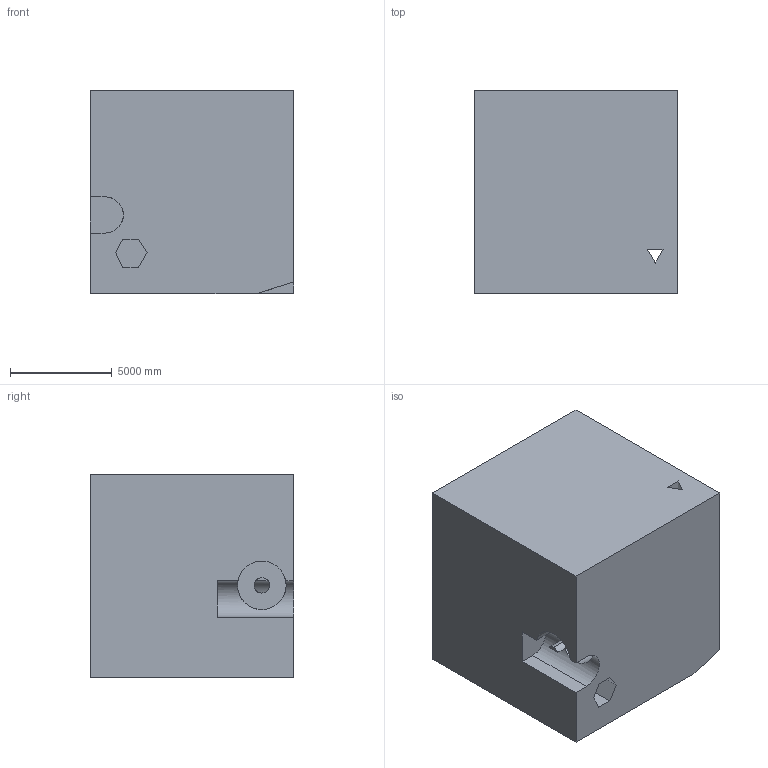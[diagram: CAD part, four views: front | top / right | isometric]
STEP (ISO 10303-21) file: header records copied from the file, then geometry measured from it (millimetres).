
FILE_DESCRIPTION (( 'STEP AP203' ), '1' );
FILE_NAME ('51.STEP', '2022-08-30T14:12:27', ( 'user' ), ( '' ), 'SwSTEP 2.0', 'SolidWorks 2021', '' );
FILE_SCHEMA (( 'CONFIG_CONTROL_DESIGN' ));
Length unit declared in the file: centimetre
Products named in the file (1): 51
Bounding box: 10000 x 10000 x 10000 mm (x, y, z)
Volume: 935265425536.4 mm3; surface area: 717705359.8 mm2
Topology: 1 solids, 1 shells, 35 faces, 93 edges, 62 vertices
Faces by surface type: plane 27, cylinder 8
Entity records: 1558 total; most frequent: CARTESIAN_POINT 595, ORIENTED_EDGE 186, DIRECTION 175, EDGE_CURVE 93, VECTOR 75, LINE 75, VERTEX_POINT 62, AXIS2_PLACEMENT_3D 50
